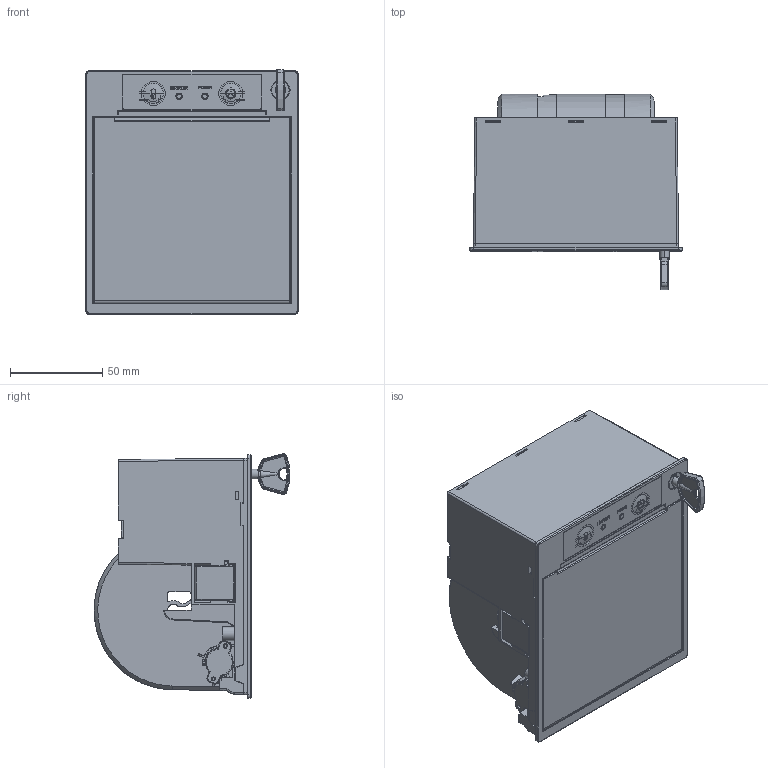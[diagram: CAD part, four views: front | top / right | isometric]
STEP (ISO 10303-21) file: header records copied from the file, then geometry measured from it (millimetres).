
FILE_DESCRIPTION((''),'2;1');
FILE_NAME('MA90_KEY_ASM','2022-06-08T14:00:49',('85377'),(''),'CREO PARAMETRIC BY PTC INC, 2019010','CREO PARAMETRIC BY PTC INC, 2019010','');
FILE_SCHEMA(('CONFIG_CONTROL_DESIGN'));
Products named in the file (17): MA90_PAPER_BOX; MA90_UPPER_COVER_A; MA90_LED_PLATE; MA90_KEY_HOLE; MA90_KEY; MA90_ROVED_COVER; MA90_IR_SUPPORT; FASTENER; REDUCER_HOLDER; REDUCER_COVER; REDUCER; O-SEAL_RINGS; REDUCER_GEAR; REDUCER_ASM; MA90_MCU_PCB_COVER; MA90_LED_PVC; MA90_KEY_ASM
Assembly tree (17 placements, depth 3):
  MA90_KEY_ASM
    MA90_PAPER_BOX
    MA90_UPPER_COVER_A
    MA90_LED_PLATE
    MA90_KEY_HOLE
    MA90_KEY
    MA90_ROVED_COVER
    MA90_IR_SUPPORT
    FASTENER  x2
    REDUCER_ASM
      REDUCER_HOLDER
      REDUCER_COVER
      REDUCER
      O-SEAL_RINGS
      REDUCER_GEAR
    MA90_MCU_PCB_COVER
    MA90_LED_PVC
Bounding box: 115 x 105.98 x 132.58 mm (x, y, z)
Volume: 148791.1 mm3; surface area: 180005.1 mm2
Topology: 16 solids, 16 shells, 3063 faces, 8498 edges, 5515 vertices
Faces by surface type: plane 1708, cylinder 1036, torus 112, bspline 98, sphere 69, cone 40
Entity records: 103453 total; most frequent: CARTESIAN_POINT 26813, ORIENTED_EDGE 16510, DIRECTION 15265, EDGE_CURVE 8255, VERTEX_POINT 5371, VECTOR 5365, LINE 5365, AXIS2_PLACEMENT_3D 4950
